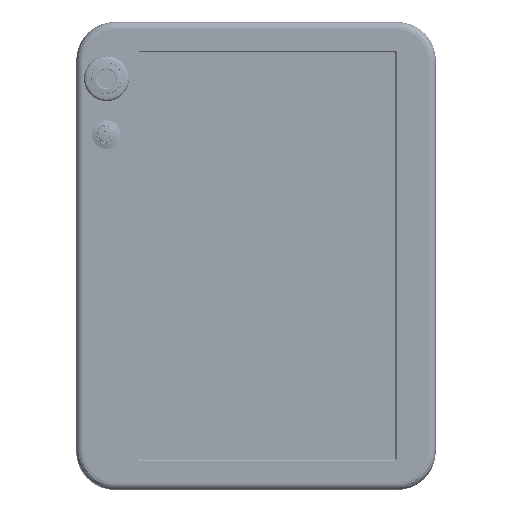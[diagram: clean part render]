
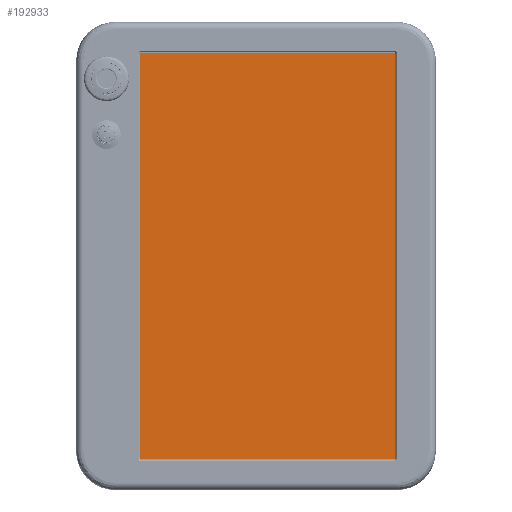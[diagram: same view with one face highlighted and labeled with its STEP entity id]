
A CAD part, front view. The second image highlights one B-rep face of the part: STEP entity #192933.
In plain terms, the highlighted planar face has unit normal (0, -1, 0) as drawn and (0, 1, 0) by its records, which use the part's own axes.
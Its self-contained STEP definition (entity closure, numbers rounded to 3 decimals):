
#34 = CARTESIAN_POINT ( 'NONE',  ( -130.835, 2.1, 82.125 ) ) ;
#3181 = LINE ( 'NONE', #146300, #235716 ) ;
#19378 = DIRECTION ( 'NONE',  ( -1., 0., 0. ) ) ;
#53310 = VERTEX_POINT ( 'NONE', #73955 ) ;
#66107 = EDGE_CURVE ( 'NONE', #248287, #166729, #3181, .T. ) ;
#73213 = ORIENTED_EDGE ( 'NONE', *, *, #66107, .T. ) ;
#73955 = CARTESIAN_POINT ( 'NONE',  ( 131.485, 2.1, 82.125 ) ) ;
#78161 = PLANE ( 'NONE',  #136889 ) ;
#86201 = EDGE_CURVE ( 'NONE', #265305, #248287, #253314, .T. ) ;
#93372 = ORIENTED_EDGE ( 'NONE', *, *, #86201, .T. ) ;
#102119 = DIRECTION ( 'NONE',  ( 0., 0., 1. ) ) ;
#125297 = VECTOR ( 'NONE', #144465, 1000. ) ;
#133865 = CARTESIAN_POINT ( 'NONE',  ( -130.835, 2.1, -82.275 ) ) ;
#136889 = AXIS2_PLACEMENT_3D ( 'NONE', #265039, #222609, #245224 ) ;
#143503 = VECTOR ( 'NONE', #19378, 1000. ) ;
#143783 = CARTESIAN_POINT ( 'NONE',  ( 131.485, 2.1, -82.275 ) ) ;
#144465 = DIRECTION ( 'NONE',  ( 1., 0., 0. ) ) ;
#146300 = CARTESIAN_POINT ( 'NONE',  ( -130.835, 2.1, -82.275 ) ) ;
#150507 = VECTOR ( 'NONE', #264746, 1000. ) ;
#156155 = ORIENTED_EDGE ( 'NONE', *, *, #212488, .T. ) ;
#156656 = EDGE_CURVE ( 'NONE', #53310, #265305, #231256, .T. ) ;
#161410 = ORIENTED_EDGE ( 'NONE', *, *, #156656, .T. ) ;
#165468 = EDGE_LOOP ( 'NONE', ( #161410, #93372, #73213, #156155 ) ) ;
#166729 = VERTEX_POINT ( 'NONE', #198076 ) ;
#191109 = CARTESIAN_POINT ( 'NONE',  ( 131.485, 2.1, -82.275 ) ) ;
#192933 = ADVANCED_FACE ( 'N', ( #198050 ), #78161, .T. ) ;
#198050 = FACE_OUTER_BOUND ( 'NONE', #165468, .T. ) ;
#198076 = CARTESIAN_POINT ( 'NONE',  ( -130.835, 2.1, 82.125 ) ) ;
#212488 = EDGE_CURVE ( 'NONE', #166729, #53310, #212504, .T. ) ;
#212504 = LINE ( 'NONE', #34, #125297 ) ;
#222609 = DIRECTION ( 'NONE',  ( 0., 1., 0. ) ) ;
#231256 = LINE ( 'NONE', #143783, #150507 ) ;
#235716 = VECTOR ( 'NONE', #102119, 1000. ) ;
#245224 = DIRECTION ( 'NONE',  ( 0., 0., 1. ) ) ;
#246854 = CARTESIAN_POINT ( 'NONE',  ( -130.835, 2.1, -82.275 ) ) ;
#248287 = VERTEX_POINT ( 'NONE', #133865 ) ;
#253314 = LINE ( 'NONE', #246854, #143503 ) ;
#264746 = DIRECTION ( 'NONE',  ( 0., 0., -1. ) ) ;
#265039 = CARTESIAN_POINT ( 'NONE',  ( 0., 2.1, 0. ) ) ;
#265305 = VERTEX_POINT ( 'NONE', #191109 ) ;
